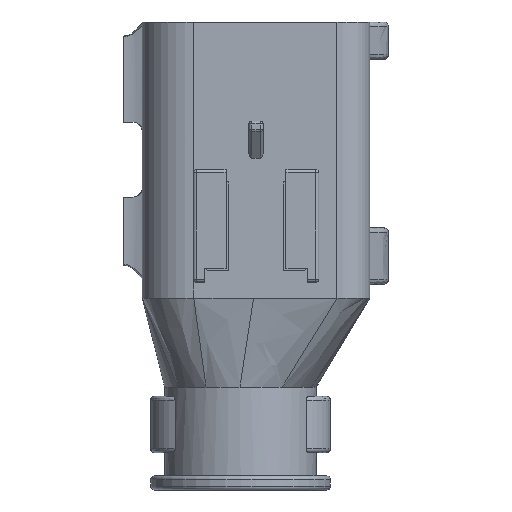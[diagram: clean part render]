
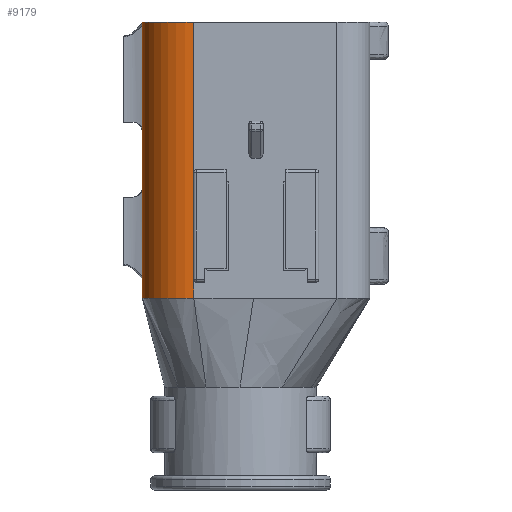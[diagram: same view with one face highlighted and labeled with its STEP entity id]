
A CAD part, left-side view. The second image highlights one B-rep face of the part: STEP entity #9179.
In plain terms, the highlighted cylindrical face has radius 5.5 mm (diameter 11 mm), a partial arc.
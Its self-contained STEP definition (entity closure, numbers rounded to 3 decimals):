
#1091=CARTESIAN_POINT('',(-4.33,-20.,-49.65));
#1092=DIRECTION('',(0.,0.,-1.));
#1093=DIRECTION('',(-1.,0.,0.));
#1094=AXIS2_PLACEMENT_3D('',#1091,#1092,#1093);
#1096=DIRECTION('',(0.,0.,1.));
#1097=VECTOR('',#1096,1.842);
#1098=CARTESIAN_POINT('',(-9.83,-20.,-49.65));
#1099=LINE('',#1098,#1097);
#1100=DIRECTION('',(0.,0.,-1.));
#1101=VECTOR('',#1100,29.5);
#1102=CARTESIAN_POINT('',(-4.33,-14.5,-20.15));
#1103=LINE('',#1102,#1101);
#1104=DIRECTION('',(0.,0.,1.));
#1105=VECTOR('',#1104,15.926);
#1106=CARTESIAN_POINT('',(-9.83,-20.,-36.076));
#1107=LINE('',#1106,#1105);
#1108=DIRECTION('',(0.,0.,1.));
#1109=VECTOR('',#1108,11.4);
#1110=CARTESIAN_POINT('',(-9.83,-19.95,-47.642));
#1111=LINE('',#1110,#1109);
#1230=CARTESIAN_POINT('',(-9.83,-19.95,-47.642));
#1231=CARTESIAN_POINT('',(-9.83,-19.95,-47.661));
#1232=CARTESIAN_POINT('',(-9.83,-19.954,
-47.701));
#1233=CARTESIAN_POINT('',(-9.83,-19.971,
-47.757));
#1234=CARTESIAN_POINT('',(-9.83,-19.989,-47.792));
#1235=CARTESIAN_POINT('',(-9.83,-20.,-47.808));
#1249=CARTESIAN_POINT('',(-9.83,-20.,-36.076));
#1250=CARTESIAN_POINT('',(-9.83,-19.989,-36.092));
#1251=CARTESIAN_POINT('',(-9.83,-19.971,
-36.127));
#1252=CARTESIAN_POINT('',(-9.83,-19.954,
-36.183));
#1253=CARTESIAN_POINT('',(-9.83,-19.95,-36.223));
#1254=CARTESIAN_POINT('',(-9.83,-19.95,-36.242));
#1784=CARTESIAN_POINT('',(-4.33,-20.,-20.15));
#1785=DIRECTION('',(0.,0.,1.));
#1786=DIRECTION('',(0.,1.,0.));
#1787=AXIS2_PLACEMENT_3D('',#1784,#1785,#1786);
#6840=CARTESIAN_POINT('',(-9.83,-20.,-20.15));
#6841=VERTEX_POINT('',#6840);
#6842=CARTESIAN_POINT('',(-4.33,-14.5,-20.15));
#6843=VERTEX_POINT('',#6842);
#6898=CARTESIAN_POINT('',(-9.83,-20.,-47.808));
#6900=VERTEX_POINT('',#6898);
#6911=CARTESIAN_POINT('',(-9.83,-20.,-36.076));
#6912=VERTEX_POINT('',#6911);
#6915=CARTESIAN_POINT('',(-9.83,-20.,-49.65));
#6916=VERTEX_POINT('',#6915);
#6998=CARTESIAN_POINT('',(-4.33,-14.5,-49.65));
#6999=VERTEX_POINT('',#6998);
#7000=CARTESIAN_POINT('',(-9.83,-19.95,-47.642));
#7001=CARTESIAN_POINT('',(-9.83,-19.95,-36.242));
#7002=VERTEX_POINT('',#7000);
#7003=VERTEX_POINT('',#7001);
#9157=CARTESIAN_POINT('',(-4.33,-20.,0.));
#9158=DIRECTION('',(0.,0.,1.));
#9159=DIRECTION('',(1.,0.,0.));
#9160=AXIS2_PLACEMENT_3D('',#9157,#9158,#9159);
#9161=CYLINDRICAL_SURFACE('',#9160,5.5);
#9163=ORIENTED_EDGE('',*,*,#9162,.F.);
#9164=ORIENTED_EDGE('',*,*,#9150,.T.);
#9166=ORIENTED_EDGE('',*,*,#9165,.F.);
#9168=ORIENTED_EDGE('',*,*,#9167,.T.);
#9170=ORIENTED_EDGE('',*,*,#9169,.F.);
#9172=ORIENTED_EDGE('',*,*,#9171,.T.);
#9174=ORIENTED_EDGE('',*,*,#9173,.F.);
#9176=ORIENTED_EDGE('',*,*,#9175,.T.);
#9177=EDGE_LOOP('',(#9163,#9164,#9166,#9168,#9170,#9172,#9174,#9176));
#9178=FACE_OUTER_BOUND('',#9177,.F.);
#9179=ADVANCED_FACE('',(#9178),#9161,.T.);
#1095=CIRCLE('',#1094,5.5);
#1236=B_SPLINE_CURVE_WITH_KNOTS('',3,(#1230,#1231,#1232,#1233,#1234,#1235),
.UNSPECIFIED.,.F.,.F.,(4,1,1,4),(0.,0.333,0.667,1.),
.UNSPECIFIED.);
#1255=B_SPLINE_CURVE_WITH_KNOTS('',3,(#1249,#1250,#1251,#1252,#1253,#1254),
.UNSPECIFIED.,.F.,.F.,(4,1,1,4),(0.,0.333,0.667,1.),
.UNSPECIFIED.);
#1788=CIRCLE('',#1787,5.5);
#9150=EDGE_CURVE('',#6916,#6999,#1095,.T.);
#9162=EDGE_CURVE('',#6916,#6900,#1099,.T.);
#9165=EDGE_CURVE('',#6843,#6999,#1103,.T.);
#9167=EDGE_CURVE('',#6843,#6841,#1788,.T.);
#9169=EDGE_CURVE('',#6912,#6841,#1107,.T.);
#9171=EDGE_CURVE('',#6912,#7003,#1255,.T.);
#9173=EDGE_CURVE('',#7002,#7003,#1111,.T.);
#9175=EDGE_CURVE('',#7002,#6900,#1236,.T.);
